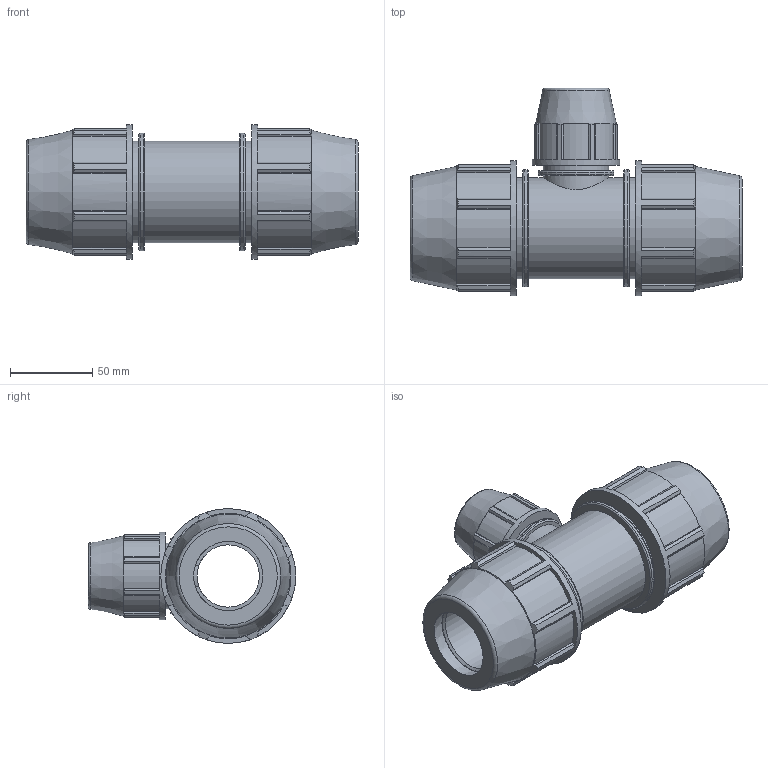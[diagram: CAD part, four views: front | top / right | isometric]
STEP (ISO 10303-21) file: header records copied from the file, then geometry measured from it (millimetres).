
FILE_DESCRIPTION(/* description */ ('PLASSON REDUCING TEE 1 1/4'''' - 3/4'''' - 1 1/4'''''),/* implementation_level */ '2;1');
FILE_NAME(/* name */ 'C:\Dropbox\KIMPROJECTS-Inventor 2019\99-16-3568-Processing Inch\ASTM Compression 2021\0734M0\0734M0013007.ipt.stp',/* time_stamp */ '2021-08-26T12:33:53+03:00',/* author */ ('Кирилл'),/* organization */ (''),/* preprocessor_version */ 'ST-DEVELOPER v17.2',/* originating_system */ 'Autodesk Inventor 2019',/* authorisation */ '');
FILE_SCHEMA (('AUTOMOTIVE_DESIGN { 1 0 10303 214 3 1 1 }'));
Length unit declared in the file: inch
Products named in the file (1): 0734M0013007
Bounding box: 201.93 x 126.11 x 82.04 mm (x, y, z)
Volume: 568417.8 mm3; surface area: 102698.8 mm2
Topology: 1 solids, 1 shells, 201 faces, 596 edges, 410 vertices
Faces by surface type: plane 138, cylinder 42, cone 12, torus 9
Full cylindrical faces by diameter (mm): 23.94 x1, 26.6 x1, 37.89 x1, 39.814 x2, 42.1 x2, 46.185 x1, 53.086 x1, 61.531 x3, 71.377 x2, 82.042 x2
Entity records: 7203 total; most frequent: CARTESIAN_POINT 1459, ORIENTED_EDGE 1192, DIRECTION 1157, EDGE_CURVE 596, AXIS2_PLACEMENT_3D 418, VERTEX_POINT 410, LINE 321, VECTOR 321
